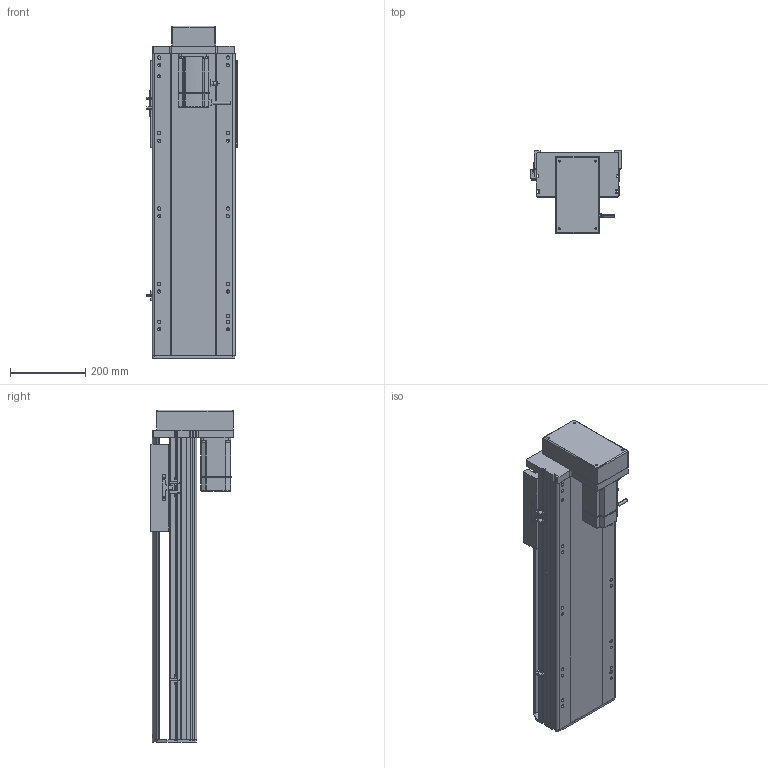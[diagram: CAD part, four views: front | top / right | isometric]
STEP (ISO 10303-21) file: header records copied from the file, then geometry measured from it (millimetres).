
FILE_DESCRIPTION (( 'STEP AP214' ), '1' );
FILE_NAME ('RTH22-XX-500-M-M75-C4.STEP', '2025-10-24T11:08:00', ( 'Microsoft' ), ( 'Microsoft' ), 'SwSTEP 2.0', 'SolidWorks 2018', '' );
FILE_SCHEMA (( 'AUTOMOTIVE_DESIGN' ));
Length unit declared in the file: millimetre
Products named in the file (10): N_RTH22-GY-013外置感应片^RTH22-XX-XX-M-M75-C4; N_RTH22-L-004-SFS25賑釱^RTH22-XX-XX-M-M75-C4; N_RTH22-L-011菁釱^RTH22-XX-XX-M-M75-C4; RTH22-XX-500-M-M75-C4; N_RTH22-GY-001耜裔^RTH22-XX-XX-M-M75-C4; N_RTH22-M-018裔赽^RTH22-XX-XX-M-M75-C4; N_RTH22-M-007奻裔^RTH22-XX-XX-M-M75-C4; N_750W萇儂^RTH22-XX-XX-M-M75-C4; N_OMRON EE-SX672 传感器^RTH22-XX-XX-M-M75-C4; N_RTH22-M-008-P75萇儂啣^RTH22-XX-XX-M-M75-C4
Assembly tree (11 placements, depth 2):
  RTH22-XX-500-M-M75-C4
    N_RTH22-L-011菁釱^RTH22-XX-XX-M-M75-C4
    N_RTH22-GY-001耜裔^RTH22-XX-XX-M-M75-C4
    N_750W萇儂^RTH22-XX-XX-M-M75-C4
    N_RTH22-M-008-P75萇儂啣^RTH22-XX-XX-M-M75-C4
    N_RTH22-M-007奻裔^RTH22-XX-XX-M-M75-C4
    N_RTH22-M-018裔赽^RTH22-XX-XX-M-M75-C4
    N_OMRON EE-SX672 传感器^RTH22-XX-XX-M-M75-C4  x3
    N_RTH22-GY-013外置感应片^RTH22-XX-XX-M-M75-C4
    N_RTH22-L-004-SFS25賑釱^RTH22-XX-XX-M-M75-C4
Bounding box: 238.5 x 218.5 x 879.7 mm (x, y, z)
Volume: 12995690.4 mm3; surface area: 1488167.1 mm2
Topology: 11 solids, 11 shells, 1587 faces, 4330 edges, 2795 vertices
Faces by surface type: plane 803, cylinder 451, bspline 279, cone 54
Entity records: 39683 total; most frequent: CARTESIAN_POINT 12068, ORIENTED_EDGE 5644, DIRECTION 5296, EDGE_CURVE 2822, VERTEX_POINT 1831, VECTOR 1770, LINE 1770, AXIS2_PLACEMENT_3D 1763
